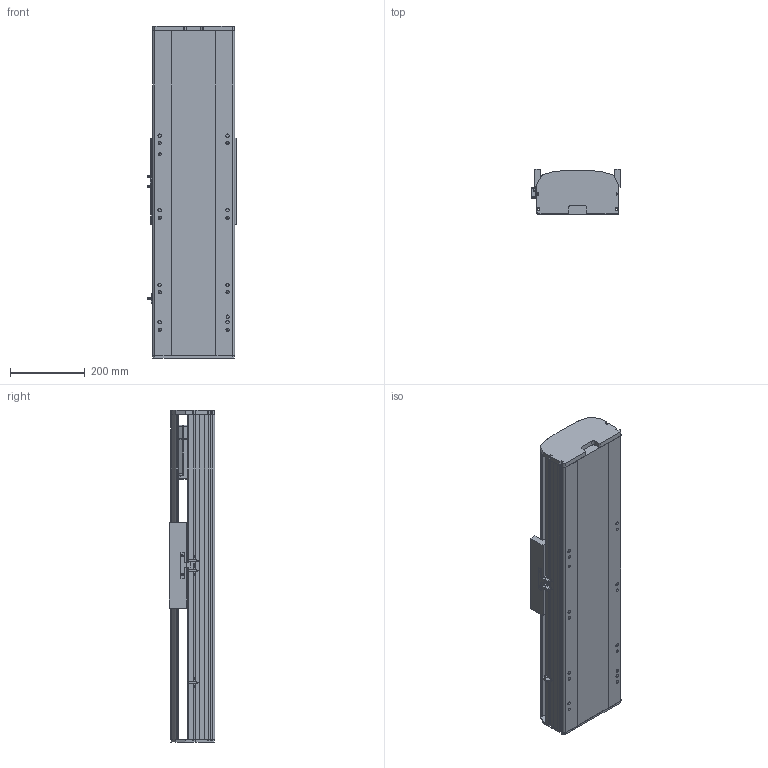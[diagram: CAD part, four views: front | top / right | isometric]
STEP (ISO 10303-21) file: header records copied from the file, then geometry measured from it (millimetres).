
FILE_DESCRIPTION (( 'STEP AP214' ), '1' );
FILE_NAME ('RTH22-XX-300-B-M75-C4.STEP', '2025-10-24T10:27:20', ( 'Microsoft' ), ( 'Microsoft' ), 'SwSTEP 2.0', 'SolidWorks 2018', '' );
FILE_SCHEMA (( 'AUTOMOTIVE_DESIGN' ));
Length unit declared in the file: millimetre
Products named in the file (9): N_RTH22-B-011菁釱^RTH22-XX-XX-B-M75-C4; N_RTH22-GY-013外置感应片^RTH22-XX-XX-B-M75-C4; N_RTH22-B-008萇儂啣^RTH22-XX-XX-B-M75-C4; N_OMRON EE-SX672 传感器^RTH22-XX-XX-B-M75-C4; N_RTH22-E-004-SFS25賑釱^RTH22-XX-XX-B-M75-C4; RTH22-XX-300-B-M75-C4; N_750W萇儂^RTH22-XX-XX-B-M75-C4; N_RTH22-B-007奻裔^RTH22-XX-XX-B-M75-C4; N_RTH22-GY-001耜裔^RTH22-XX-XX-B-M75-C4
Assembly tree (10 placements, depth 2):
  RTH22-XX-300-B-M75-C4
    N_RTH22-B-011菁釱^RTH22-XX-XX-B-M75-C4
    N_RTH22-GY-001耜裔^RTH22-XX-XX-B-M75-C4
    N_750W萇儂^RTH22-XX-XX-B-M75-C4
    N_RTH22-B-008萇儂啣^RTH22-XX-XX-B-M75-C4
    N_RTH22-B-007奻裔^RTH22-XX-XX-B-M75-C4
    N_OMRON EE-SX672 传感器^RTH22-XX-XX-B-M75-C4  x3
    N_RTH22-GY-013外置感应片^RTH22-XX-XX-B-M75-C4
    N_RTH22-E-004-SFS25賑釱^RTH22-XX-XX-B-M75-C4
Bounding box: 238.5 x 122 x 890 mm (x, y, z)
Volume: 13305361.7 mm3; surface area: 1404024.9 mm2
Topology: 10 solids, 10 shells, 1479 faces, 4050 edges, 2623 vertices
Faces by surface type: plane 748, cylinder 406, bspline 279, cone 46
Entity records: 36117 total; most frequent: CARTESIAN_POINT 11401, ORIENTED_EDGE 5100, DIRECTION 4728, EDGE_CURVE 2550, VERTEX_POINT 1659, VECTOR 1596, LINE 1596, AXIS2_PLACEMENT_3D 1566
